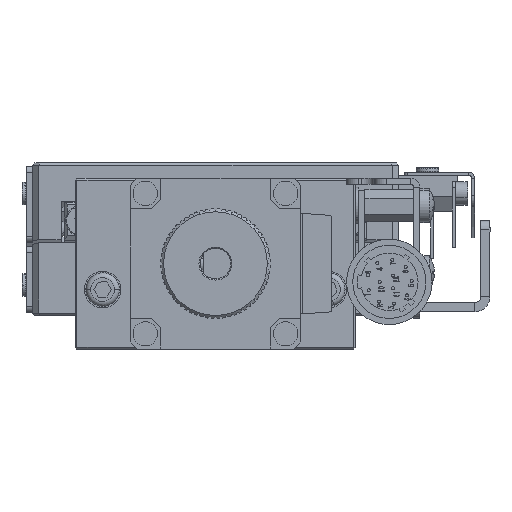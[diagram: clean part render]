
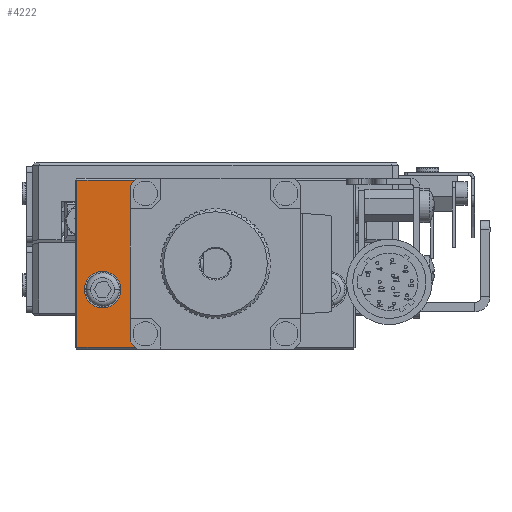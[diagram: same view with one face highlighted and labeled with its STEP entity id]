
A CAD part, left-side view. The second image highlights one B-rep face of the part: STEP entity #4222.
In plain terms, the highlighted planar face has unit normal (-1, 0, 0).
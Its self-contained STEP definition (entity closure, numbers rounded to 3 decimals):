
#2454 = ORIENTED_EDGE ( 'NONE', *, *, #73163, .F. ) ;
#4222 = ADVANCED_FACE ( 'NONE', ( #57069, #120689 ), #100641, .F. ) ;
#6800 = AXIS2_PLACEMENT_3D ( 'NONE', #46234, #121054, #55147 ) ;
#8674 = CARTESIAN_POINT ( 'NONE',  ( -63., 50.5, -27.845 ) ) ;
#12060 = LINE ( 'NONE', #19675, #107232 ) ;
#19675 = CARTESIAN_POINT ( 'NONE',  ( -63., 36.5, -1.3 ) ) ;
#20861 = EDGE_CURVE ( 'NONE', #106273, #84692, #88451, .T. ) ;
#20878 = CARTESIAN_POINT ( 'NONE',  ( -63., 59.2, -1.3 ) ) ;
#22806 = CARTESIAN_POINT ( 'NONE',  ( -63., 55., -19.25 ) ) ;
#24544 = DIRECTION ( 'NONE',  ( 0., 1., 0. ) ) ;
#26467 = CARTESIAN_POINT ( 'NONE',  ( -63., 52., -19.25 ) ) ;
#26689 = DIRECTION ( 'NONE',  ( 0., 0., 1. ) ) ;
#28234 = VERTEX_POINT ( 'NONE', #64085 ) ;
#28698 = CARTESIAN_POINT ( 'NONE',  ( -63., 50.5, -2.155 ) ) ;
#30073 = VECTOR ( 'NONE', #26689, 1000. ) ;
#30759 = DIRECTION ( 'NONE',  ( 0., 0., -1. ) ) ;
#33060 = EDGE_CURVE ( 'NONE', #73520, #28234, #94653, .T. ) ;
#33720 = VERTEX_POINT ( 'NONE', #130918 ) ;
#38858 = CARTESIAN_POINT ( 'NONE',  ( -63., 59.2, -28.7 ) ) ;
#40853 = VERTEX_POINT ( 'NONE', #69609 ) ;
#41074 = DIRECTION ( 'NONE',  ( 0., 1., 0. ) ) ;
#46234 = CARTESIAN_POINT ( 'NONE',  ( -63., 55., -19.25 ) ) ;
#49776 = LINE ( 'NONE', #94726, #101552 ) ;
#49922 = ORIENTED_EDGE ( 'NONE', *, *, #118249, .T. ) ;
#52522 = VECTOR ( 'NONE', #95587, 1000. ) ;
#53038 = DIRECTION ( 'NONE',  ( 0., 0., -1. ) ) ;
#53488 = DIRECTION ( 'NONE',  ( 1., 0., 0. ) ) ;
#55147 = DIRECTION ( 'NONE',  ( 0., -1., 0. ) ) ;
#56190 = DIRECTION ( 'NONE',  ( -1., 0., 0. ) ) ;
#57069 = FACE_OUTER_BOUND ( 'NONE', #138266, .T. ) ;
#57293 = CIRCLE ( 'NONE', #6800, 3. ) ;
#64085 = CARTESIAN_POINT ( 'NONE',  ( -63., 58., -19.25 ) ) ;
#65354 = AXIS2_PLACEMENT_3D ( 'NONE', #98778, #120338, #122185 ) ;
#69609 = CARTESIAN_POINT ( 'NONE',  ( -63., 49.665, -28.7 ) ) ;
#71759 = ORIENTED_EDGE ( 'NONE', *, *, #99378, .F. ) ;
#73163 = EDGE_CURVE ( 'NONE', #28234, #73520, #57293, .T. ) ;
#73520 = VERTEX_POINT ( 'NONE', #26467 ) ;
#75450 = CARTESIAN_POINT ( 'NONE',  ( -63., 36.5, -15. ) ) ;
#77235 = CARTESIAN_POINT ( 'NONE',  ( -63., 36.5, -15. ) ) ;
#77742 = ORIENTED_EDGE ( 'NONE', *, *, #126817, .T. ) ;
#82119 = EDGE_CURVE ( 'NONE', #97778, #113742, #49776, .T. ) ;
#84692 = VERTEX_POINT ( 'NONE', #28698 ) ;
#85469 = AXIS2_PLACEMENT_3D ( 'NONE', #22806, #87555, #130639 ) ;
#87096 = EDGE_CURVE ( 'NONE', #33720, #97778, #12060, .T. ) ;
#87555 = DIRECTION ( 'NONE',  ( -1., 0., 0. ) ) ;
#88451 = LINE ( 'NONE', #101858, #30073 ) ;
#90607 = CIRCLE ( 'NONE', #127300, 19. ) ;
#94653 = CIRCLE ( 'NONE', #85469, 3. ) ;
#94726 = CARTESIAN_POINT ( 'NONE',  ( -63., 59.2, -15. ) ) ;
#95587 = DIRECTION ( 'NONE',  ( 0., -1., 0. ) ) ;
#97778 = VERTEX_POINT ( 'NONE', #20878 ) ;
#98778 = CARTESIAN_POINT ( 'NONE',  ( -63., 36.5, -15. ) ) ;
#99378 = EDGE_CURVE ( 'NONE', #106273, #40853, #133516, .T. ) ;
#100641 = PLANE ( 'NONE',  #65354 ) ;
#101033 = ORIENTED_EDGE ( 'NONE', *, *, #20861, .T. ) ;
#101552 = VECTOR ( 'NONE', #30759, 1000. ) ;
#101858 = CARTESIAN_POINT ( 'NONE',  ( -63., 50.5, -27.845 ) ) ;
#102221 = EDGE_LOOP ( 'NONE', ( #120343, #2454 ) ) ;
#102685 = LINE ( 'NONE', #117146, #52522 ) ;
#103977 = ORIENTED_EDGE ( 'NONE', *, *, #87096, .T. ) ;
#106273 = VERTEX_POINT ( 'NONE', #8674 ) ;
#107232 = VECTOR ( 'NONE', #41074, 1000. ) ;
#113742 = VERTEX_POINT ( 'NONE', #38858 ) ;
#117146 = CARTESIAN_POINT ( 'NONE',  ( -63., 36.5, -28.7 ) ) ;
#117573 = ORIENTED_EDGE ( 'NONE', *, *, #82119, .T. ) ;
#117755 = AXIS2_PLACEMENT_3D ( 'NONE', #77235, #56190, #24544 ) ;
#118249 = EDGE_CURVE ( 'NONE', #84692, #33720, #90607, .T. ) ;
#120338 = DIRECTION ( 'NONE',  ( 1., 0., 0. ) ) ;
#120343 = ORIENTED_EDGE ( 'NONE', *, *, #33060, .F. ) ;
#120689 = FACE_BOUND ( 'NONE', #102221, .T. ) ;
#121054 = DIRECTION ( 'NONE',  ( -1., 0., 0. ) ) ;
#122185 = DIRECTION ( 'NONE',  ( 0., 1., 0. ) ) ;
#126817 = EDGE_CURVE ( 'NONE', #113742, #40853, #102685, .T. ) ;
#127300 = AXIS2_PLACEMENT_3D ( 'NONE', #75450, #53488, #53038 ) ;
#130639 = DIRECTION ( 'NONE',  ( 0., -1., 0. ) ) ;
#130918 = CARTESIAN_POINT ( 'NONE',  ( -63., 49.665, -1.3 ) ) ;
#133516 = CIRCLE ( 'NONE', #117755, 19. ) ;
#138266 = EDGE_LOOP ( 'NONE', ( #49922, #103977, #117573, #77742, #71759, #101033 ) ) ;
